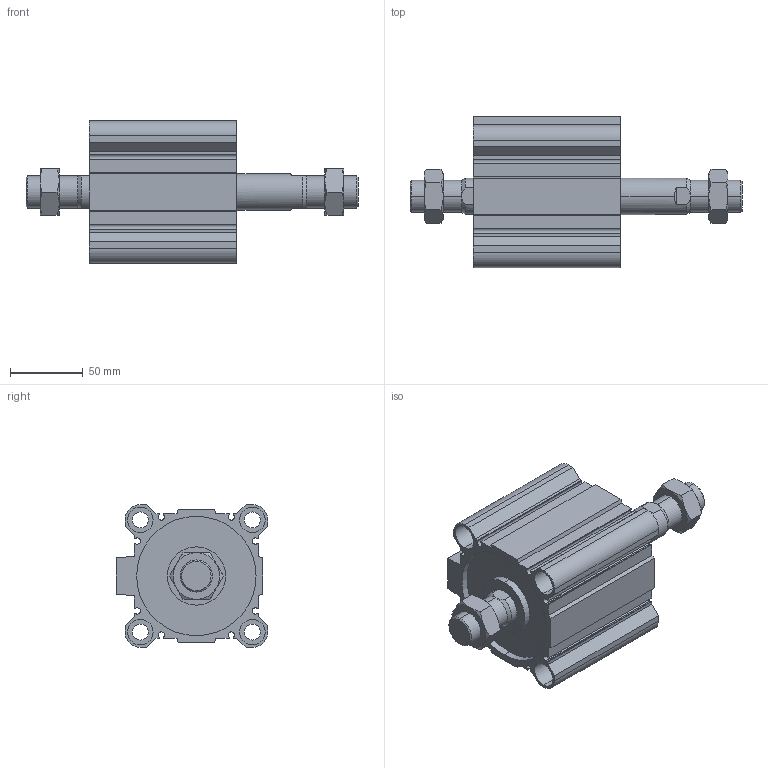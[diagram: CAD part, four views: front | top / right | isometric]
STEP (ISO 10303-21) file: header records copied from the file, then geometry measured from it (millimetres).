
FILE_DESCRIPTION (( 'STEP AP203' ), '1' );
FILE_NAME ('CCMB80-40M-P.STEP', '2020-08-10T11:54:59', ( '' ), ( '' ), 'SwSTEP 2.0', 'SolidWorks 2019', '' );
FILE_SCHEMA (( 'CONFIG_CONTROL_DESIGN' ));
Length unit declared in the file: millimetre
Products named in the file (1): CCMB80-40M-P
Bounding box: 228 x 104 x 98 mm (x, y, z)
Volume: 632526.8 mm3; surface area: 157678.4 mm2
Topology: 4 solids, 4 shells, 228 faces, 558 edges, 356 vertices
Faces by surface type: plane 106, cylinder 78, cone 44
Entity records: 7569 total; most frequent: CARTESIAN_POINT 2055, DIRECTION 1148, ORIENTED_EDGE 1116, EDGE_CURVE 558, AXIS2_PLACEMENT_3D 425, VERTEX_POINT 356, LINE 298, VECTOR 298
